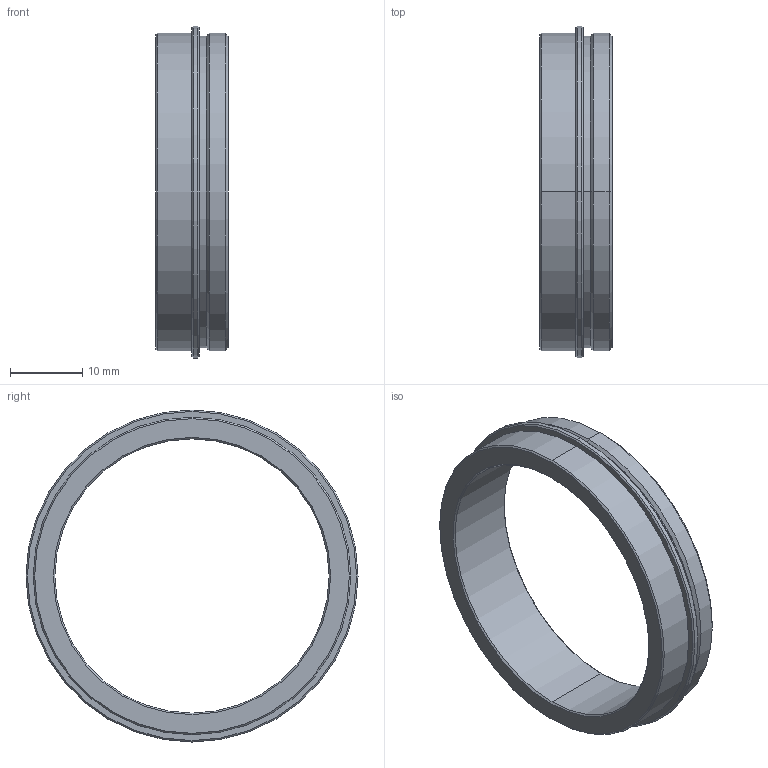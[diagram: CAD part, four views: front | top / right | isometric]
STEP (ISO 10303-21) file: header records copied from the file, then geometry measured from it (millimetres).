
FILE_DESCRIPTION (( 'STEP AP203' ), '1' );
FILE_NAME ('VS-LH_V.STEP', '2017-03-16T00:00:03', ( 'miura_vst' ), ( '' ), 'SwSTEP 2.0', 'SolidWorks 2017', '' );
FILE_SCHEMA (( 'CONFIG_CONTROL_DESIGN' ));
Length unit declared in the file: millimetre
Products named in the file (1): VS-LH_V
Bounding box: 10 x 46 x 46 mm (x, y, z)
Volume: 3915.4 mm3; surface area: 3601.8 mm2
Topology: 1 solids, 1 shells, 28 faces, 56 edges, 32 vertices
Faces by surface type: cone 14, cylinder 10, plane 4
Entity records: 805 total; most frequent: DIRECTION 146, CARTESIAN_POINT 117, ORIENTED_EDGE 112, AXIS2_PLACEMENT_3D 61, EDGE_CURVE 56, VERTEX_POINT 32, EDGE_LOOP 32, CIRCLE 32
